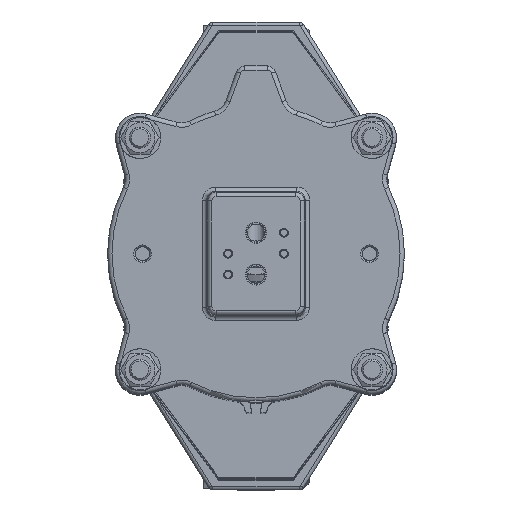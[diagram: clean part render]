
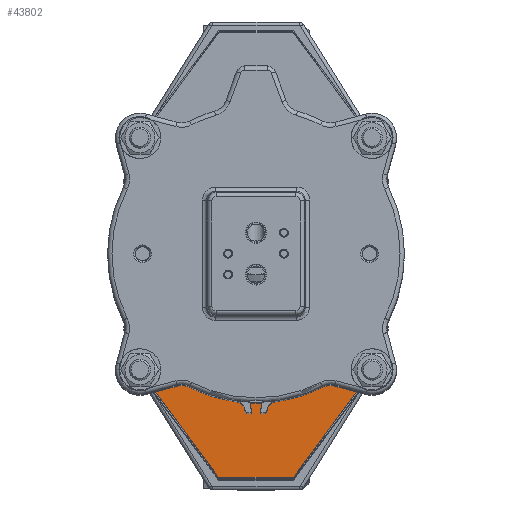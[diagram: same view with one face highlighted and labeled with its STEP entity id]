
A CAD part, top view. The second image highlights one B-rep face of the part: STEP entity #43802.
In plain terms, the highlighted planar face has unit normal (0, 0, 1).
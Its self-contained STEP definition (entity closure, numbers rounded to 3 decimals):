
#2743=PLANE('',#47873);
#4236=LINE('',#80770,#6792);
#4238=LINE('',#80773,#6794);
#4239=LINE('',#80776,#6795);
#4267=LINE('',#80843,#6823);
#4268=LINE('',#80845,#6824);
#4269=LINE('',#80847,#6825);
#4270=LINE('',#80849,#6826);
#4271=LINE('',#80850,#6827);
#6792=VECTOR('',#56896,10.);
#6794=VECTOR('',#56900,10.);
#6795=VECTOR('',#56903,10.);
#6823=VECTOR('',#56977,10.);
#6824=VECTOR('',#56978,10.);
#6825=VECTOR('',#56979,10.);
#6826=VECTOR('',#56980,10.);
#6827=VECTOR('',#56981,10.);
#10284=FACE_OUTER_BOUND('',#13083,.T.);
#13083=EDGE_LOOP('',(#34735,#34736,#34737,#34738,#34739,#34740,#34741,#34742));
#19840=VERTEX_POINT('',#80725);
#19856=VERTEX_POINT('',#80767);
#19857=VERTEX_POINT('',#80769);
#19858=VERTEX_POINT('',#80775);
#19874=VERTEX_POINT('',#80842);
#19875=VERTEX_POINT('',#80844);
#19876=VERTEX_POINT('',#80846);
#19877=VERTEX_POINT('',#80848);
#25144=EDGE_CURVE('',#19857,#19856,#4236,.T.);
#25146=EDGE_CURVE('',#19856,#19840,#4238,.T.);
#25147=EDGE_CURVE('',#19858,#19857,#4239,.T.);
#25182=EDGE_CURVE('',#19840,#19874,#4267,.T.);
#25183=EDGE_CURVE('',#19874,#19875,#4268,.T.);
#25184=EDGE_CURVE('',#19876,#19875,#4269,.T.);
#25185=EDGE_CURVE('',#19877,#19876,#4270,.T.);
#25186=EDGE_CURVE('',#19858,#19877,#4271,.T.);
#34735=ORIENTED_EDGE('',*,*,#25146,.T.);
#34736=ORIENTED_EDGE('',*,*,#25182,.T.);
#34737=ORIENTED_EDGE('',*,*,#25183,.T.);
#34738=ORIENTED_EDGE('',*,*,#25184,.F.);
#34739=ORIENTED_EDGE('',*,*,#25185,.F.);
#34740=ORIENTED_EDGE('',*,*,#25186,.F.);
#34741=ORIENTED_EDGE('',*,*,#25147,.T.);
#34742=ORIENTED_EDGE('',*,*,#25144,.T.);
#43802=ADVANCED_FACE('',(#10284),#2743,.T.);
#47873=AXIS2_PLACEMENT_3D('',#80841,#56975,#56976);
#56896=DIRECTION('',(0.594,-0.804,0.));
#56900=DIRECTION('',(1.,0.,0.));
#56903=DIRECTION('',(0.,-1.,0.));
#56975=DIRECTION('center_axis',(0.,0.,
1.));
#56976=DIRECTION('ref_axis',(1.,0.,0.));
#56977=DIRECTION('',(1.,0.,0.));
#56978=DIRECTION('',(1.,0.,0.));
#56979=DIRECTION('',(-0.594,-0.804,0.));
#56980=DIRECTION('',(0.,-1.,0.));
#56981=DIRECTION('',(1.,0.,0.));
#80725=CARTESIAN_POINT('',(-20.647,-129.253,554.7));
#80767=CARTESIAN_POINT('',(-21.516,-129.253,554.7));
#80769=CARTESIAN_POINT('',(-65.,-70.423,554.7));
#80770=CARTESIAN_POINT('',(-20.998,-129.953,554.7));
#80773=CARTESIAN_POINT('',(2.503,-129.253,554.7));
#80775=CARTESIAN_POINT('',(-65.,-61.953,554.7));
#80776=CARTESIAN_POINT('',(-65.,-70.423,554.7));
#80841=CARTESIAN_POINT('Origin',(25.652,-89.886,554.7));
#80842=CARTESIAN_POINT('',(20.647,-129.253,554.7));
#80843=CARTESIAN_POINT('',(2.503,-129.253,554.7));
#80844=CARTESIAN_POINT('',(21.516,-129.253,554.7));
#80845=CARTESIAN_POINT('',(23.15,-129.253,554.7));
#80846=CARTESIAN_POINT('',(65.,-70.423,554.7));
#80847=CARTESIAN_POINT('',(20.998,-129.953,554.7));
#80848=CARTESIAN_POINT('',(65.,-61.953,554.7));
#80849=CARTESIAN_POINT('',(65.,-70.423,554.7));
#80850=CARTESIAN_POINT('',(65.,-61.953,554.7));
